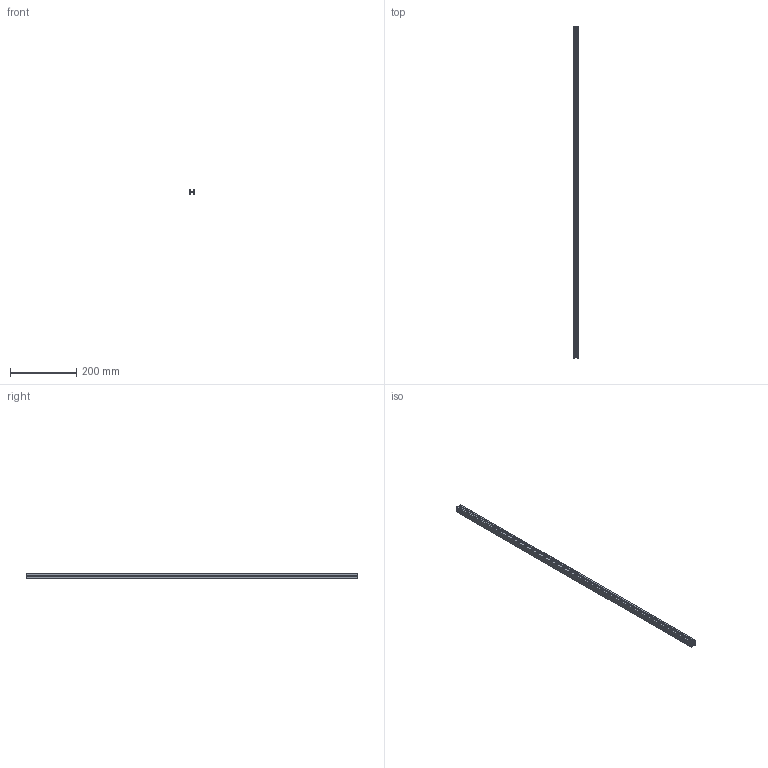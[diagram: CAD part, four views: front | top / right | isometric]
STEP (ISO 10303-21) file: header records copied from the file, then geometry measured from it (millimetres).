
FILE_DESCRIPTION (( 'STEP AP214' ), '1' );
FILE_NAME ('PEP1818-1000.STEP', '2019-10-29T09:28:37', ( '微软用户' ), ( '微软中国' ), 'SwSTEP 2.0', 'SolidWorks 2016', '' );
FILE_SCHEMA (( 'AUTOMOTIVE_DESIGN' ));
Length unit declared in the file: millimetre
Products named in the file (1): PEP1818-1000
Bounding box: 18 x 1000 x 18 mm (x, y, z)
Volume: 154048.8 mm3; surface area: 149998.7 mm2
Topology: 1 solids, 1 shells, 78 faces, 228 edges, 152 vertices
Faces by surface type: plane 42, cylinder 36
Entity records: 3504 total; most frequent: CARTESIAN_POINT 459, DIRECTION 458, ORIENTED_EDGE 456, EDGE_CURVE 228, VECTOR 156, LINE 156, VERTEX_POINT 152, AXIS2_PLACEMENT_3D 151
